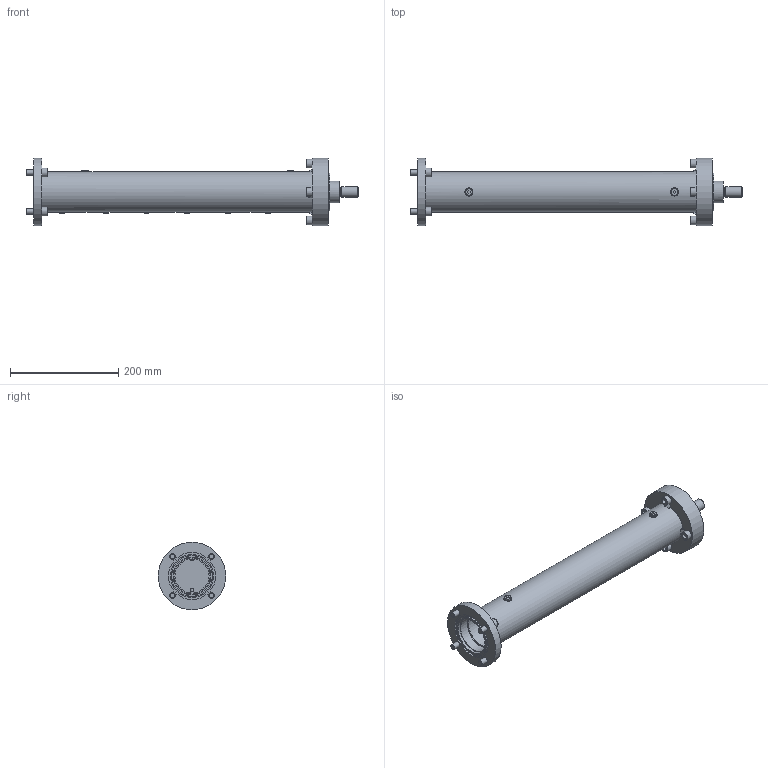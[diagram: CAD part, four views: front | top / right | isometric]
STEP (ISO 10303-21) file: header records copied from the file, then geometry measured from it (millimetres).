
FILE_DESCRIPTION((''),'2;1');
FILE_NAME('Open CASCADE Shape Model','2020-05-13T08:59:10',('cad'),(''), 'Open CASCADE STEP processor 7.3','Autodesk Inventor 2013','Unknown');
FILE_SCHEMA(('AUTOMOTIVE_DESIGN_CC2 { 1 2 10303 214 -1 1 5 4 }'));
Length unit declared in the file: millimetre
Products named in the file (1): LA.3..
Bounding box: 614 x 125 x 125 mm (x, y, z)
Volume: 1217979.5 mm3; surface area: 314991.9 mm2
Topology: 1 solids, 9 shells, 378 faces, 825 edges, 544 vertices
Faces by surface type: plane 210, cylinder 106, cone 40, torus 22
Full cylindrical faces by diameter (mm): 4 x2, 6 x6, 6.2 x6, 6.6 x6, 8 x4, 8.2 x2, 8.376 x8, 10 x14, 10.5 x8, 11 x14, 12 x2, 14 x2, 15 x2, 16 x8, 17.7 x1, 20 x1, 40 x1, 60 x1, 62 x1, 63 x1, 67 x5, 70 x4, 75 x3, 80 x1, 87 x1, 125 x2
Entity records: 13312 total; most frequent: CARTESIAN_POINT 2713, ORIENTED_EDGE 1622, DIRECTION 1598, EDGE_CURVE 811, AXIS2_PLACEMENT_3D 681, VERTEX_POINT 544, FACE_BOUND 495, EDGE_LOOP 495
